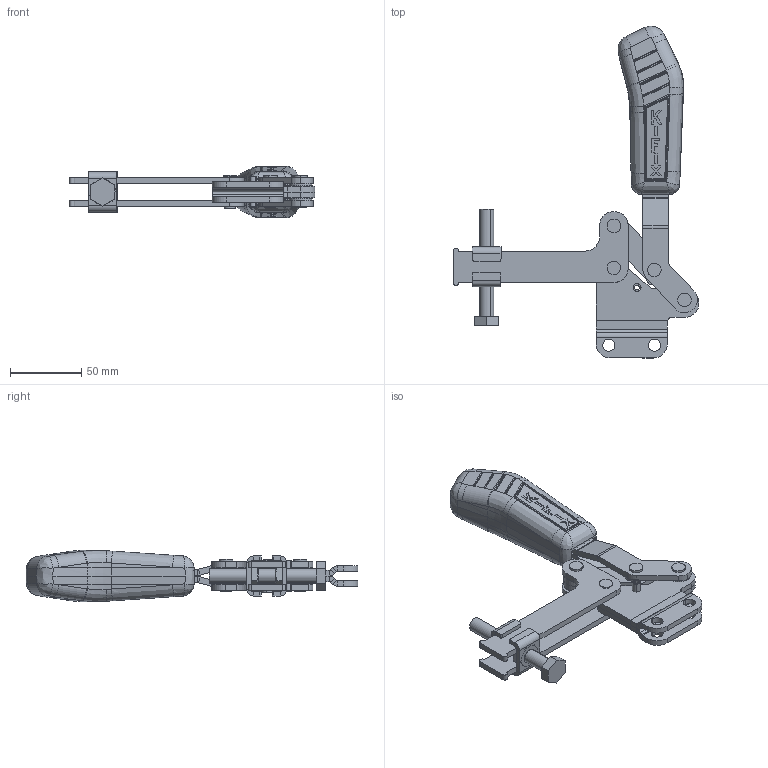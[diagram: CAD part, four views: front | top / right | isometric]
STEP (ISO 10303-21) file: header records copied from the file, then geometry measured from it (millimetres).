
FILE_DESCRIPTION (( 'STEP AP203' ), '1' );
FILE_NAME ('KF-631 RL.STEP', '2014-08-01T19:07:26', ( 'Ricardo' ), ( '' ), 'SwSTEP 2.0', 'SolidWorks 2013', '' );
FILE_SCHEMA (( 'CONFIG_CONTROL_DESIGN' ));
Length unit declared in the file: millimetre
Products named in the file (14): 16.50002; 08.10008; 17.50002; 01.10016_Direita; KF-631 RL; 01.10016_Esquerda; 12.50004; 11.50003; 14.10002; 02.11010_Direita; 06.50009; 02.11010_Esquerda; 07.60003; 03.13048
Assembly tree (27 placements, depth 2):
  KF-631 RL
    02.11010_Direita
    02.11010_Esquerda
    03.13048  x2
    08.10008  x2
    01.10016_Direita
    01.10016_Esquerda
    12.50004
    11.50003  x2
    14.10002  x2
    06.50009  x4
    07.60003
    16.50002
    17.50002  x8
Bounding box: 172 x 232.38 x 35.98 mm (x, y, z)
Volume: 207822 mm3; surface area: 88767.1 mm2
Topology: 27 solids, 27 shells, 894 faces, 2154 edges, 1323 vertices
Faces by surface type: plane 323, cylinder 280, bspline 145, cone 95, sphere 48, torus 3
Entity records: 25826 total; most frequent: CARTESIAN_POINT 8949, ORIENTED_EDGE 3384, DIRECTION 2750, EDGE_CURVE 1692, AXIS2_PLACEMENT_3D 1055, VERTEX_POINT 1052, EDGE_LOOP 758, ADVANCED_FACE 689
